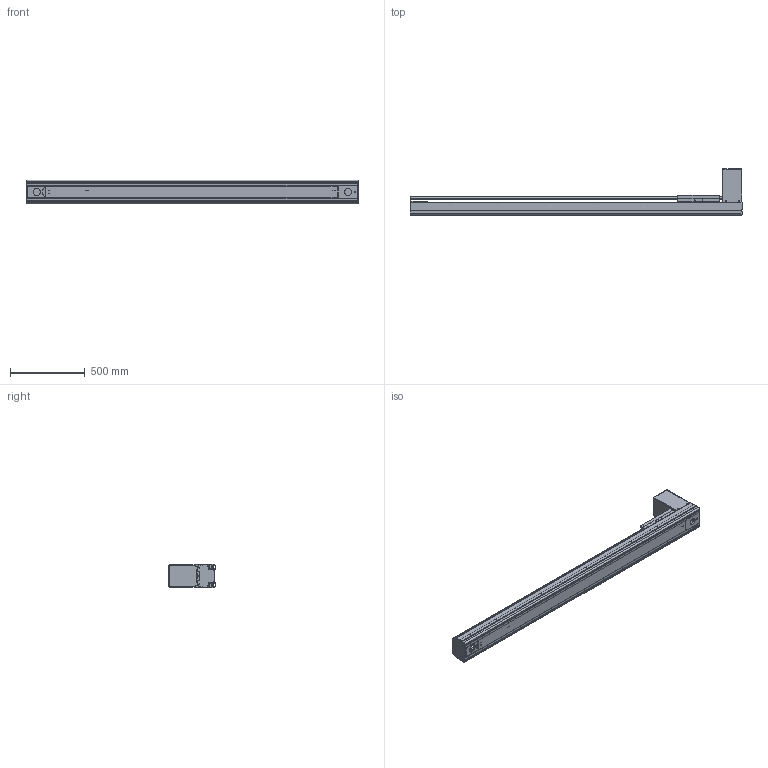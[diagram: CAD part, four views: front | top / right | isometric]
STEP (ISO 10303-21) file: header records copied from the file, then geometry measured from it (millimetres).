
FILE_DESCRIPTION((''),'2;1');
FILE_NAME('BE50G-BT-L19N-G5_IGS_PRT','2017-06-18T',(' '),(''),'PRO/ENGINEER BY PARAMETRIC TECHNOLOGY CORPORATION, 2015030','PRO/ENGINEER BY PARAMETRIC TECHNOLOGY CORPORATION, 2015030','');
FILE_SCHEMA(('CONFIG_CONTROL_DESIGN'));
Products named in the file (1): BE50G-BT-L19N-G5_IGS_PRT
Bounding box: 2220 x 309 x 160 mm (x, y, z)
Volume: 9904035.8 mm3; surface area: 3985167.7 mm2
Topology: 3 solids, 161 shells, 2025 faces, 5771 edges, 3846 vertices
Faces by surface type: cylinder 1032, plane 794, cone 156, sphere 23, torus 20
Entity records: 69080 total; most frequent: CARTESIAN_POINT 15661, DIRECTION 11158, ORIENTED_EDGE 10766, EDGE_CURVE 5697, AXIS2_PLACEMENT_3D 4190, VERTEX_POINT 3846, VECTOR 2778, LINE 2778
